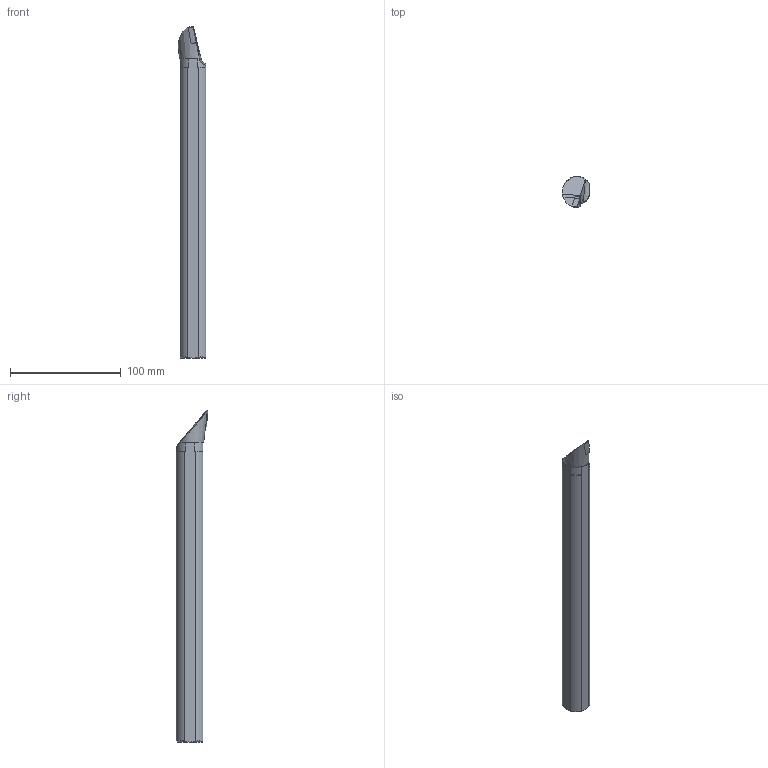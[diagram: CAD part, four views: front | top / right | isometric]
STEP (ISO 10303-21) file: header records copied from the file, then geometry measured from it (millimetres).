
FILE_DESCRIPTION(/* description */ (''),/* implementation_level */ '2;1');
FILE_NAME(/* name */ 'A25T-SVMBR16-HAAS.stp',/* time_stamp */ '2021-09-29T12:05:04+09:00',/* author */ (''),/* organization */ (''),/* preprocessor_version */ 'ST-DEVELOPER v11',/* originating_system */ 'SIEMENS UGS NX 6.0',/* authorisation */ '');
FILE_SCHEMA (('CONFIG_CONTROL_DESIGN'));
Length unit declared in the file: millimetre
Products named in the file (1): user080E645i
Bounding box: 25.1 x 28.41 x 299.48 mm (x, y, z)
Volume: 131738.1 mm3; surface area: 23543.9 mm2
Topology: 2 solids, 2 shells, 31 faces, 79 edges, 52 vertices
Faces by surface type: plane 15, cone 9, cylinder 6, revolution 1
Full cylindrical faces by diameter (mm): 6.2 x1
Entity records: 1051 total; most frequent: CARTESIAN_POINT 222, ORIENTED_EDGE 154, DIRECTION 153, EDGE_CURVE 77, AXIS2_PLACEMENT_3D 59, VERTEX_POINT 51, EDGE_LOOP 34, LINE 34
